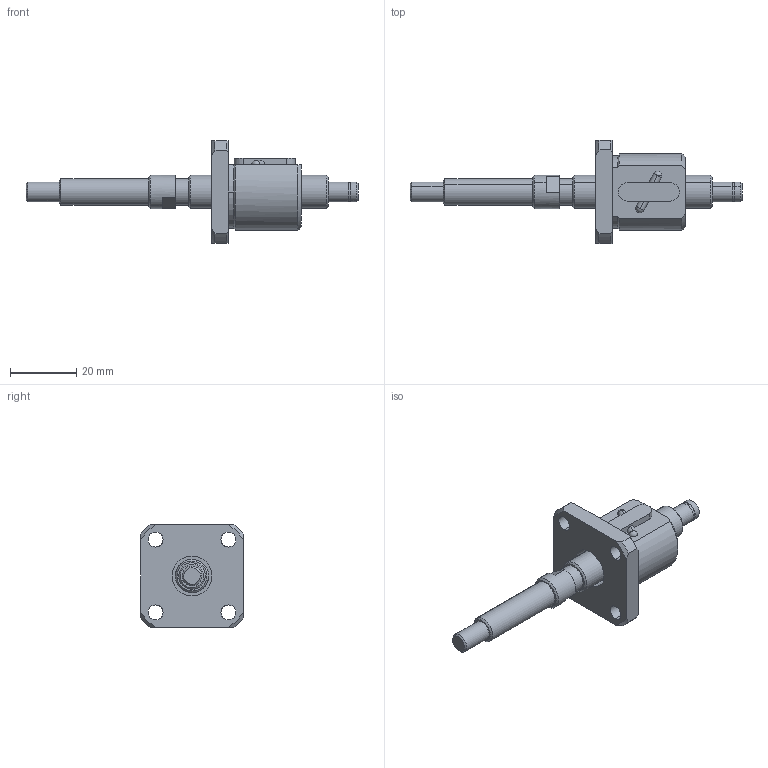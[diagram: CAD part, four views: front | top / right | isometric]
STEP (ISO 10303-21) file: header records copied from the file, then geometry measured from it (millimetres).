
FILE_DESCRIPTION (( 'STEP AP203' ), '1' );
FILE_NAME ('TS1002 assy_20160716.STEP', '2016-07-16T04:46:48', ( 'user' ), ( 'Hewlett-Packard Company' ), 'SwSTEP 2.0', 'SolidWorks 2014', '' );
FILE_SCHEMA (( 'CONFIG_CONTROL_DESIGN' ));
Length unit declared in the file: millimetre
Products named in the file (3): TS1002 screw; TS1002 nut; TS1002 assy_20160716
Assembly tree (2 placements, depth 2):
  TS1002 assy_20160716
    TS1002 screw
    TS1002 nut
Bounding box: 100 x 31 x 31 mm (x, y, z)
Volume: 16297.1 mm3; surface area: 7927.7 mm2
Topology: 2 solids, 2 shells, 102 faces, 258 edges, 165 vertices
Faces by surface type: cylinder 45, plane 28, cone 26, sphere 3
Entity records: 3464 total; most frequent: CARTESIAN_POINT 648, DIRECTION 569, ORIENTED_EDGE 508, EDGE_CURVE 254, AXIS2_PLACEMENT_3D 236, VERTEX_POINT 163, CIRCLE 129, EDGE_LOOP 119
